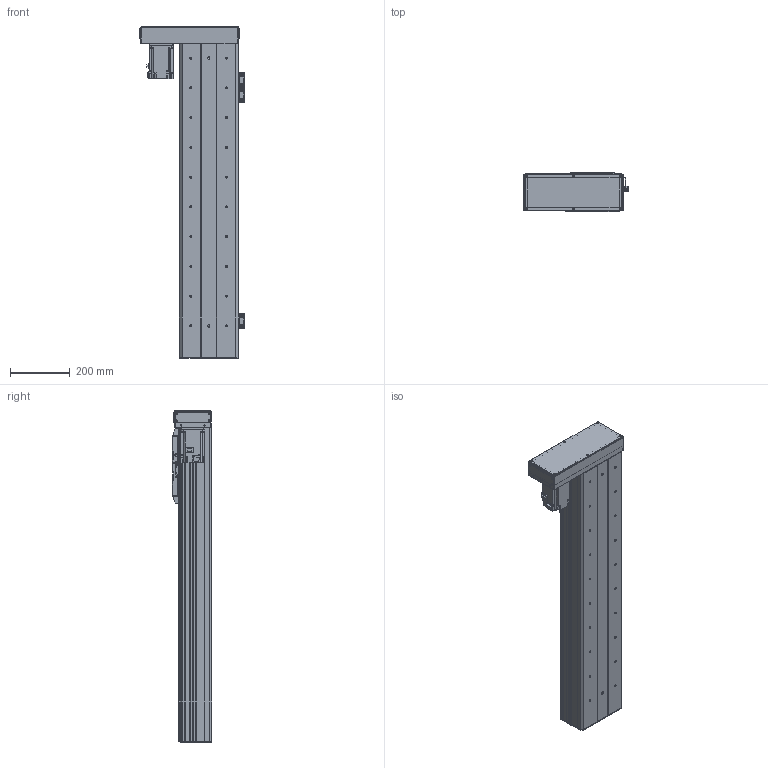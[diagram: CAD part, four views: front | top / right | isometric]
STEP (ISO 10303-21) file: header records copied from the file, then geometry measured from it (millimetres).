
FILE_DESCRIPTION(/* description */ ('MANUFACTURE'),/* implementation_level */ '2;1');
FILE_NAME(/* name */ '\\192.168.0.160\disk1\HAN SHIN Master\B-설계부문\C-표준\B-2024년\BC02-표준도면\+로봇 개선표준도면\표준 승인도 폴더 - 재작업\3D\HC Type\HC200\좌병렬\HC200-L70-N-0800-R10.stp',/* time_stamp */ '2024-03-25T09:17:18+09:00',/* author */ ('User'),/* organization */ (''),/* preprocessor_version */ 'ST-DEVELOPER v18.1',/* originating_system */ 'Autodesk Inventor 2022',/* authorisation */ 'LIP');
FILE_SCHEMA (('AUTOMOTIVE_DESIGN { 1 0 10303 214 3 1 1 }'));
Products named in the file (28): HC200-L70-N-0500-R10 - 간소화; HC200 S BASE F - 1100ST; HC90 REAR COVER; HC200 TABLE COVER - 개주; HC75 SENSOR DOG; HC200-STEEL SHEET F - 1100ST; LMKE2020 NUT; HR180 FRONT BLOCK; HR120 STOPPER; HC200 TABLE; HR180 FRONT BLOCK_1; HC200 SIDE COVER F - 1100ST; HC140 SHEET PLATE; HC65 TABLE SIDE COVER; M-5UT; M-5H-4; hg-kr73_; 750W MOTOR PLATE; HR200 ACRYL COVER -1; HR200 ACRYL COVER -1_1; HG200 750W LR MOTOR PLATE-사출; HR160 400W LR BELT COVER; HR200 ACRYL COVER -1_2; 화살표; SENSOR BRK(EE-SX674A); EE_SX674A; hsr_ftht_A-M6F_grease_nipple_joint; NIPPLE CAP(신규)
Assembly tree (49 placements, depth 2):
  HC200-L70-N-0500-R10 - 간소화
    HC200 S BASE F - 1100ST
    HC90 REAR COVER
    HC200 TABLE COVER - 개주
    HC65 TABLE SIDE COVER  x2
    HC75 SENSOR DOG
    HC200-STEEL SHEET F - 1100ST
    LMKE2020 NUT
    HR120 STOPPER  x2
    HR180 FRONT BLOCK
    HC200 SIDE COVER F - 1100ST  x2
    HC200 TABLE
    HR180 FRONT BLOCK_1
    HC140 SHEET PLATE  x2
    hsr_ftht_A-M6F_grease_nipple_joint  x5
    NIPPLE CAP(신규)  x5
    M-5UT  x2
    M-5H-4  x4
    hg-kr73_
    750W MOTOR PLATE
    HR200 ACRYL COVER -1
    HR200 ACRYL COVER -1_1
    HR200 ACRYL COVER -1_2  x2
    HG200 750W LR MOTOR PLATE-사출
    HR160 400W LR BELT COVER
    화살표  x2
    SENSOR BRK(EE-SX674A)  x3
    EE_SX674A  x3
Bounding box: 351 x 132 x 1116 mm (x, y, z)
Volume: 8842525.1 mm3; surface area: 2608790 mm2
Topology: 51 solids, 51 shells, 4375 faces, 11908 edges, 7821 vertices
Faces by surface type: plane 3038, cylinder 889, cone 354, sphere 44, torus 30, bspline 20
Full cylindrical faces by diameter (mm): 1.8 x4, 2 x6, 2.459 x58, 2.5 x6, 3 x16, 3.242 x23, 3.4 x24, 3.5 x12, 4 x6, 4.134 x12, 4.5 x26, 4.917 x29, 5 x26, 5.5 x5, 5.6 x5, 5.9 x4, 6 x11, 6.5 x14, 6.6 x32, 6.647 x30, 6.8 x2, 7 x10, 7.6 x4, 8 x6, 9 x10, 9.5 x1, 10.5 x8, 11 x36, 19 x1, 20 x1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
Entity records: 112673 total; most frequent: CARTESIAN_POINT 20529, ORIENTED_EDGE 19068, DIRECTION 18066, EDGE_CURVE 9534, LINE 7848, VECTOR 7848, VERTEX_POINT 6347, AXIS2_PLACEMENT_3D 5109
